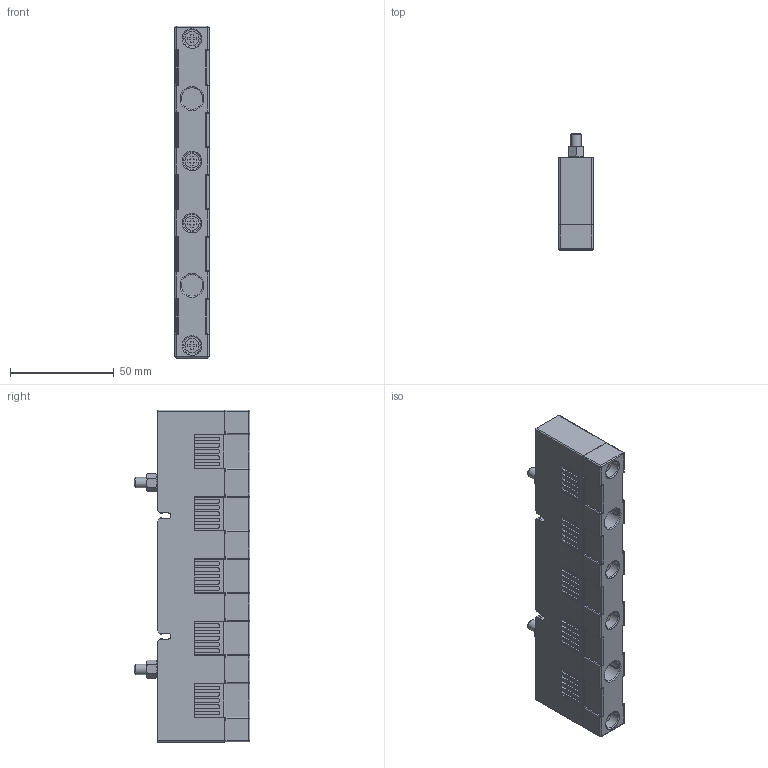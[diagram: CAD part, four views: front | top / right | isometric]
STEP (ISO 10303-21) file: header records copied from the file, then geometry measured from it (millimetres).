
FILE_DESCRIPTION (( 'STEP AP214' ), '1' );
FILE_NAME ('52272.STEP', '2021-01-16T06:39:15', ( '' ), ( '' ), 'SwSTEP 2.0', 'SolidWorks 2017', '' );
FILE_SCHEMA (( 'AUTOMOTIVE_DESIGN' ));
Length unit declared in the file: millimetre
Products named in the file (2): 52272
Bounding box: 16.4 x 55.77 x 160 mm (x, y, z)
Volume: 100306.4 mm3; surface area: 39991.3 mm2
Topology: 10 solids, 24 shells, 1224 faces, 3358 edges, 2176 vertices
Faces by surface type: plane 896, cylinder 235, cone 31, sphere 24, bspline 24, torus 14
Full cylindrical faces by diameter (mm): 3.2 x1, 4 x4, 4.134 x2, 4.25 x2, 5 x6, 6.78 x4, 8 x4, 8.28 x2, 8.5 x4, 10.5 x2
Entity records: 39682 total; most frequent: CARTESIAN_POINT 9178, ORIENTED_EDGE 6502, DIRECTION 5888, EDGE_CURVE 3251, LINE 2490, VECTOR 2490, VERTEX_POINT 2153, AXIS2_PLACEMENT_3D 1699
